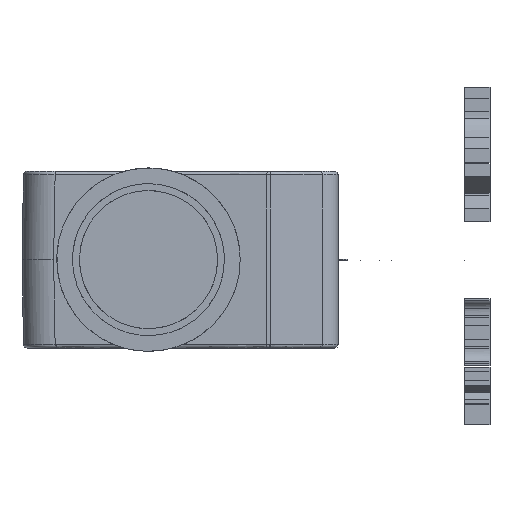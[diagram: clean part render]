
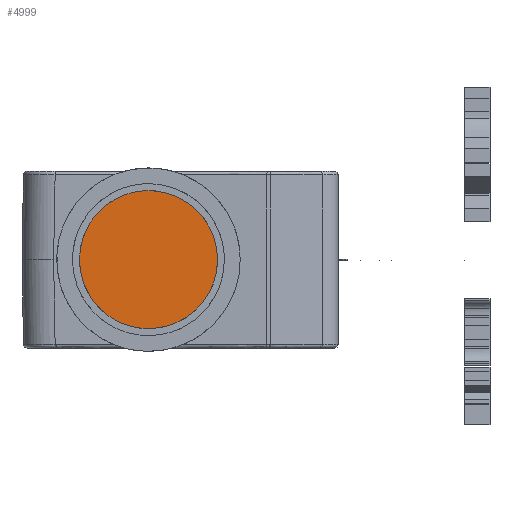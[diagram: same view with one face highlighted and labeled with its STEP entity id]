
A CAD part, front view. The second image highlights one B-rep face of the part: STEP entity #4999.
In plain terms, the highlighted planar face has unit normal (0, -1, 0).
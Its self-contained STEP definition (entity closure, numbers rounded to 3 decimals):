
#54=PLANE('',#10471);
#4999=ADVANCED_FACE('',(#5616),#54,.F.);
#5616=FACE_OUTER_BOUND('',#6135,.T.);
#6135=EDGE_LOOP('',(#8304));
#8304=ORIENTED_EDGE('',*,*,#10098,.F.);
#9011=VERTEX_POINT('',#20139);
#10098=EDGE_CURVE('',#9011,#9011,#10408,.T.);
#10408=(
BOUNDED_CURVE()
B_SPLINE_CURVE(2,(#20132,#20133,#20134,#20135,#20136,#20137,#20138),
 .UNSPECIFIED.,.T.,.F.)
B_SPLINE_CURVE_WITH_KNOTS((1,2,2,2,2,1),(-0.333,0.,0.333,
0.667,1.,1.333),.UNSPECIFIED.)
CURVE()
GEOMETRIC_REPRESENTATION_ITEM()
RATIONAL_B_SPLINE_CURVE((1.,0.5,1.,0.5,1.,0.5,1.))
REPRESENTATION_ITEM('')
);
#10471=AXIS2_PLACEMENT_3D('',#20154,#10596,#10597);
#10596=DIRECTION('',(0.,1.,0.));
#10597=DIRECTION('',(0.984,0.,-0.176));
#20132=CARTESIAN_POINT('',(-16.336,-108.423,-0.29));
#20133=CARTESIAN_POINT('',(-16.336,-108.423,-9.744));
#20134=CARTESIAN_POINT('',(-24.524,-108.423,-5.017));
#20135=CARTESIAN_POINT('',(-32.711,-108.423,-0.29));
#20136=CARTESIAN_POINT('',(-24.524,-108.423,4.437));
#20137=CARTESIAN_POINT('',(-16.336,-108.423,9.164));
#20138=CARTESIAN_POINT('',(-16.336,-108.423,-0.29));
#20139=CARTESIAN_POINT('',(-16.336,-108.423,-0.29));
#20154=CARTESIAN_POINT('',(-21.795,-108.423,-0.29));
